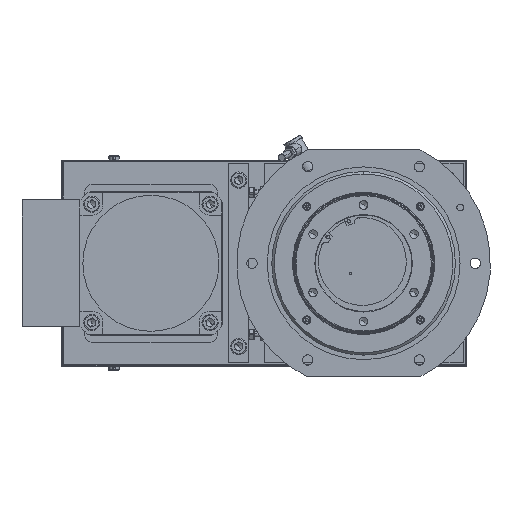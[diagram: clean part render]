
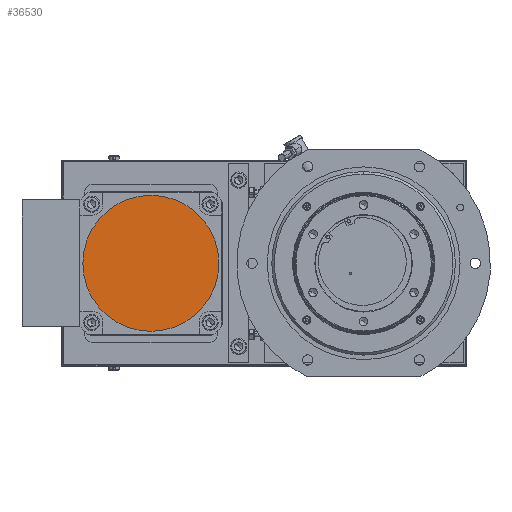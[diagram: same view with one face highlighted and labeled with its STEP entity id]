
A CAD part, front view. The second image highlights one B-rep face of the part: STEP entity #36530.
In plain terms, the highlighted planar face has unit normal (0, -1, 0).
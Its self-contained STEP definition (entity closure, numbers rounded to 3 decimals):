
#213 = PLANE ( 'NONE',  #20327 ) ;
#1073 = CARTESIAN_POINT ( 'NONE',  ( -154.411, 53.779, 201.409 ) ) ;
#1103 = DIRECTION ( 'NONE',  ( 0., -1., 0. ) ) ;
#1748 = EDGE_CURVE ( 'NONE', #7014, #4106, #30639, .T. ) ;
#4106 = VERTEX_POINT ( 'NONE', #46750 ) ;
#7014 = VERTEX_POINT ( 'NONE', #1073 ) ;
#8898 = DIRECTION ( 'NONE',  ( 0., 0., -1. ) ) ;
#15482 = CIRCLE ( 'NONE', #28430, 67. ) ;
#20327 = AXIS2_PLACEMENT_3D ( 'NONE', #30494, #34842, #8898 ) ;
#23112 = CARTESIAN_POINT ( 'NONE',  ( -154.411, 53.779, 134.409 ) ) ;
#25124 = ORIENTED_EDGE ( 'NONE', *, *, #43302, .T. ) ;
#27051 = CARTESIAN_POINT ( 'NONE',  ( -154.411, 53.779, 134.409 ) ) ;
#27450 = DIRECTION ( 'NONE',  ( 0., 0., 1. ) ) ;
#28430 = AXIS2_PLACEMENT_3D ( 'NONE', #23112, #53396, #27450 ) ;
#28697 = ORIENTED_EDGE ( 'NONE', *, *, #1748, .T. ) ;
#30494 = CARTESIAN_POINT ( 'NONE',  ( -224.411, 53.779, 64.409 ) ) ;
#30639 = CIRCLE ( 'NONE', #54287, 67. ) ;
#31404 = DIRECTION ( 'NONE',  ( 0., 0., 1. ) ) ;
#34842 = DIRECTION ( 'NONE',  ( 0., 1., 0. ) ) ;
#36530 = ADVANCED_FACE ( 'NONE', ( #55527 ), #213, .F. ) ;
#43302 = EDGE_CURVE ( 'NONE', #4106, #7014, #15482, .T. ) ;
#46750 = CARTESIAN_POINT ( 'NONE',  ( -154.411, 53.779, 67.409 ) ) ;
#48814 = EDGE_LOOP ( 'NONE', ( #28697, #25124 ) ) ;
#53396 = DIRECTION ( 'NONE',  ( 0., -1., 0. ) ) ;
#54287 = AXIS2_PLACEMENT_3D ( 'NONE', #27051, #1103, #31404 ) ;
#55527 = FACE_OUTER_BOUND ( 'NONE', #48814, .T. ) ;
